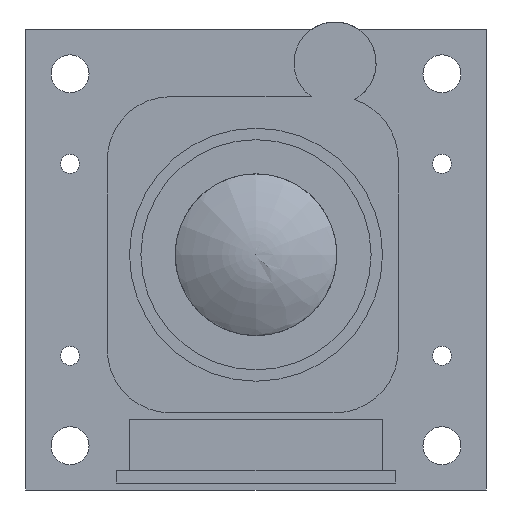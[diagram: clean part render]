
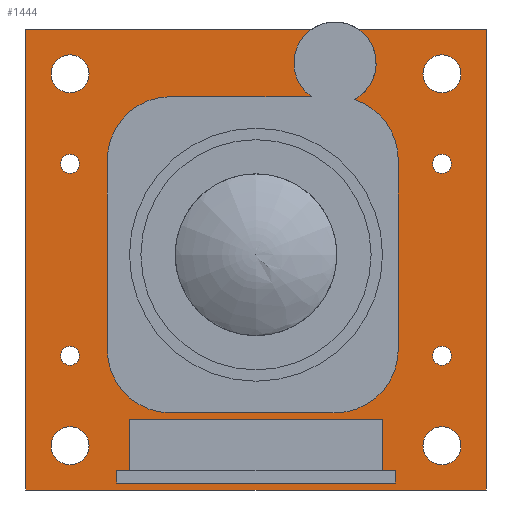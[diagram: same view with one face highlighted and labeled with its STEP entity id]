
A CAD part, front view. The second image highlights one B-rep face of the part: STEP entity #1444.
In plain terms, the highlighted planar face has unit normal (0, -1, 0).
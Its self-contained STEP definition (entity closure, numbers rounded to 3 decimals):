
#57=FACE_BOUND('',#239,.T.);
#58=FACE_BOUND('',#240,.T.);
#59=FACE_BOUND('',#241,.T.);
#60=FACE_BOUND('',#242,.T.);
#61=FACE_BOUND('',#243,.T.);
#62=FACE_BOUND('',#244,.T.);
#63=FACE_BOUND('',#245,.T.);
#64=FACE_BOUND('',#246,.T.);
#87=PLANE('',#1593);
#155=FACE_OUTER_BOUND('',#238,.T.);
#238=EDGE_LOOP('',(#1064,#1065,#1066,#1067,#1068,#1069,#1070,#1071,#1072,
#1073,#1074,#1075,#1076,#1077,#1078));
#239=EDGE_LOOP('',(#1079));
#240=EDGE_LOOP('',(#1080));
#241=EDGE_LOOP('',(#1081));
#242=EDGE_LOOP('',(#1082));
#243=EDGE_LOOP('',(#1083));
#244=EDGE_LOOP('',(#1084));
#245=EDGE_LOOP('',(#1085));
#246=EDGE_LOOP('',(#1086));
#335=LINE('',#2149,#490);
#338=LINE('',#2155,#493);
#340=LINE('',#2159,#495);
#348=LINE('',#2190,#503);
#349=LINE('',#2194,#504);
#350=LINE('',#2200,#505);
#351=LINE('',#2204,#506);
#352=LINE('',#2208,#507);
#353=LINE('',#2211,#508);
#490=VECTOR('',#1736,10.);
#493=VECTOR('',#1741,10.);
#495=VECTOR('',#1743,10.);
#503=VECTOR('',#1777,10.);
#504=VECTOR('',#1782,10.);
#505=VECTOR('',#1787,10.);
#506=VECTOR('',#1790,10.);
#507=VECTOR('',#1793,10.);
#508=VECTOR('',#1796,10.);
#649=CIRCLE('',#1582,1.5);
#651=CIRCLE('',#1585,1.5);
#653=CIRCLE('',#1588,1.5);
#655=CIRCLE('',#1591,1.5);
#656=CIRCLE('',#1594,3.25);
#657=CIRCLE('',#1595,3.25);
#658=CIRCLE('',#1596,5.);
#659=CIRCLE('',#1597,5.);
#660=CIRCLE('',#1598,5.);
#661=CIRCLE('',#1599,5.);
#662=CIRCLE('',#1600,0.75);
#663=CIRCLE('',#1601,0.75);
#664=CIRCLE('',#1602,0.75);
#665=CIRCLE('',#1603,0.75);
#693=VERTEX_POINT('',#2146);
#694=VERTEX_POINT('',#2148);
#696=VERTEX_POINT('',#2154);
#697=VERTEX_POINT('',#2156);
#698=VERTEX_POINT('',#2158);
#700=VERTEX_POINT('',#2164);
#702=VERTEX_POINT('',#2170);
#704=VERTEX_POINT('',#2176);
#706=VERTEX_POINT('',#2182);
#708=VERTEX_POINT('',#2188);
#709=VERTEX_POINT('',#2192);
#710=VERTEX_POINT('',#2195);
#711=VERTEX_POINT('',#2197);
#712=VERTEX_POINT('',#2199);
#713=VERTEX_POINT('',#2201);
#714=VERTEX_POINT('',#2203);
#715=VERTEX_POINT('',#2205);
#716=VERTEX_POINT('',#2207);
#717=VERTEX_POINT('',#2209);
#718=VERTEX_POINT('',#2212);
#719=VERTEX_POINT('',#2214);
#720=VERTEX_POINT('',#2216);
#721=VERTEX_POINT('',#2218);
#829=EDGE_CURVE('',#694,#693,#335,.T.);
#832=EDGE_CURVE('',#696,#694,#338,.T.);
#834=EDGE_CURVE('',#698,#697,#340,.T.);
#838=EDGE_CURVE('',#700,#700,#649,.T.);
#841=EDGE_CURVE('',#702,#702,#651,.T.);
#844=EDGE_CURVE('',#704,#704,#653,.T.);
#847=EDGE_CURVE('',#706,#706,#655,.T.);
#850=EDGE_CURVE('',#693,#708,#348,.T.);
#851=EDGE_CURVE('',#709,#696,#656,.T.);
#852=EDGE_CURVE('',#708,#698,#349,.T.);
#853=EDGE_CURVE('',#697,#710,#657,.T.);
#854=EDGE_CURVE('',#710,#711,#658,.T.);
#855=EDGE_CURVE('',#711,#712,#350,.T.);
#856=EDGE_CURVE('',#712,#713,#659,.T.);
#857=EDGE_CURVE('',#713,#714,#351,.T.);
#858=EDGE_CURVE('',#714,#715,#660,.T.);
#859=EDGE_CURVE('',#715,#716,#352,.T.);
#860=EDGE_CURVE('',#716,#717,#661,.T.);
#861=EDGE_CURVE('',#717,#709,#353,.T.);
#862=EDGE_CURVE('',#718,#718,#662,.T.);
#863=EDGE_CURVE('',#719,#719,#663,.T.);
#864=EDGE_CURVE('',#720,#720,#664,.T.);
#865=EDGE_CURVE('',#721,#721,#665,.T.);
#1064=ORIENTED_EDGE('',*,*,#851,.T.);
#1065=ORIENTED_EDGE('',*,*,#832,.T.);
#1066=ORIENTED_EDGE('',*,*,#829,.T.);
#1067=ORIENTED_EDGE('',*,*,#850,.T.);
#1068=ORIENTED_EDGE('',*,*,#852,.T.);
#1069=ORIENTED_EDGE('',*,*,#834,.T.);
#1070=ORIENTED_EDGE('',*,*,#853,.T.);
#1071=ORIENTED_EDGE('',*,*,#854,.T.);
#1072=ORIENTED_EDGE('',*,*,#855,.T.);
#1073=ORIENTED_EDGE('',*,*,#856,.T.);
#1074=ORIENTED_EDGE('',*,*,#857,.T.);
#1075=ORIENTED_EDGE('',*,*,#858,.T.);
#1076=ORIENTED_EDGE('',*,*,#859,.T.);
#1077=ORIENTED_EDGE('',*,*,#860,.T.);
#1078=ORIENTED_EDGE('',*,*,#861,.T.);
#1079=ORIENTED_EDGE('',*,*,#862,.T.);
#1080=ORIENTED_EDGE('',*,*,#863,.T.);
#1081=ORIENTED_EDGE('',*,*,#864,.T.);
#1082=ORIENTED_EDGE('',*,*,#865,.T.);
#1083=ORIENTED_EDGE('',*,*,#847,.T.);
#1084=ORIENTED_EDGE('',*,*,#844,.T.);
#1085=ORIENTED_EDGE('',*,*,#841,.T.);
#1086=ORIENTED_EDGE('',*,*,#838,.T.);
#1444=ADVANCED_FACE('',(#155,#57,#58,#59,#60,#61,#62,#63,#64),#87,.T.);
#1582=AXIS2_PLACEMENT_3D('',#2166,#1750,#1751);
#1585=AXIS2_PLACEMENT_3D('',#2172,#1757,#1758);
#1588=AXIS2_PLACEMENT_3D('',#2178,#1764,#1765);
#1591=AXIS2_PLACEMENT_3D('',#2184,#1771,#1772);
#1593=AXIS2_PLACEMENT_3D('',#2191,#1778,#1779);
#1594=AXIS2_PLACEMENT_3D('',#2193,#1780,#1781);
#1595=AXIS2_PLACEMENT_3D('',#2196,#1783,#1784);
#1596=AXIS2_PLACEMENT_3D('',#2198,#1785,#1786);
#1597=AXIS2_PLACEMENT_3D('',#2202,#1788,#1789);
#1598=AXIS2_PLACEMENT_3D('',#2206,#1791,#1792);
#1599=AXIS2_PLACEMENT_3D('',#2210,#1794,#1795);
#1600=AXIS2_PLACEMENT_3D('',#2213,#1797,#1798);
#1601=AXIS2_PLACEMENT_3D('',#2215,#1799,#1800);
#1602=AXIS2_PLACEMENT_3D('',#2217,#1801,#1802);
#1603=AXIS2_PLACEMENT_3D('',#2219,#1803,#1804);
#1736=DIRECTION('',(0.,0.,-1.));
#1741=DIRECTION('',(-1.,0.,0.));
#1743=DIRECTION('',(-1.,0.,0.));
#1750=DIRECTION('center_axis',(0.,1.,0.));
#1751=DIRECTION('ref_axis',(-1.,0.,0.));
#1757=DIRECTION('center_axis',(0.,1.,0.));
#1758=DIRECTION('ref_axis',(-1.,0.,0.));
#1764=DIRECTION('center_axis',(0.,1.,0.));
#1765=DIRECTION('ref_axis',(-1.,0.,0.));
#1771=DIRECTION('center_axis',(0.,1.,0.));
#1772=DIRECTION('ref_axis',(-1.,0.,0.));
#1777=DIRECTION('',(1.,0.,0.));
#1778=DIRECTION('center_axis',(0.,-1.,0.));
#1779=DIRECTION('ref_axis',(1.,0.,0.));
#1780=DIRECTION('center_axis',(0.,1.,0.));
#1781=DIRECTION('ref_axis',(1.,0.,0.));
#1782=DIRECTION('',(0.,0.,1.));
#1783=DIRECTION('center_axis',(0.,1.,0.));
#1784=DIRECTION('ref_axis',(1.,0.,0.));
#1785=DIRECTION('center_axis',(0.,1.,0.));
#1786=DIRECTION('ref_axis',(1.,0.,0.));
#1787=DIRECTION('',(0.,0.,-1.));
#1788=DIRECTION('center_axis',(0.,1.,0.));
#1789=DIRECTION('ref_axis',(0.,0.,
-1.));
#1790=DIRECTION('',(-1.,0.,0.));
#1791=DIRECTION('center_axis',(0.,1.,0.));
#1792=DIRECTION('ref_axis',(-1.,0.,0.));
#1793=DIRECTION('',(0.,0.,1.));
#1794=DIRECTION('center_axis',(0.,1.,0.));
#1795=DIRECTION('ref_axis',(0.,0.,1.));
#1796=DIRECTION('',(1.,0.,0.));
#1797=DIRECTION('center_axis',(0.,1.,0.));
#1798=DIRECTION('ref_axis',(-1.,0.,0.));
#1799=DIRECTION('center_axis',(0.,1.,0.));
#1800=DIRECTION('ref_axis',(-1.,0.,0.));
#1801=DIRECTION('center_axis',(0.,1.,0.));
#1802=DIRECTION('ref_axis',(-1.,0.,0.));
#1803=DIRECTION('center_axis',(0.,1.,0.));
#1804=DIRECTION('ref_axis',(-1.,0.,0.));
#2146=CARTESIAN_POINT('',(-9.083,-10.58,-2.979));
#2148=CARTESIAN_POINT('',(-9.083,-10.58,33.421));
#2149=CARTESIAN_POINT('',(-9.083,-10.58,33.421));
#2154=CARTESIAN_POINT('',(13.481,-10.58,33.421));
#2155=CARTESIAN_POINT('',(27.317,-10.58,33.421));
#2156=CARTESIAN_POINT('',(17.244,-10.58,33.421));
#2158=CARTESIAN_POINT('',(27.317,-10.58,33.421));
#2159=CARTESIAN_POINT('',(27.317,-10.58,33.421));
#2164=CARTESIAN_POINT('',(-4.083,-10.58,29.921));
#2166=CARTESIAN_POINT('Origin',(-5.583,-10.58,29.921));
#2170=CARTESIAN_POINT('',(25.317,-10.58,29.921));
#2172=CARTESIAN_POINT('Origin',(23.817,-10.58,29.921));
#2176=CARTESIAN_POINT('',(25.317,-10.58,0.521));
#2178=CARTESIAN_POINT('Origin',(23.817,-10.58,0.521));
#2182=CARTESIAN_POINT('',(-4.083,-10.58,0.521));
#2184=CARTESIAN_POINT('Origin',(-5.583,-10.58,0.521));
#2188=CARTESIAN_POINT('',(27.317,-10.58,-2.979));
#2190=CARTESIAN_POINT('',(27.317,-10.58,-2.979));
#2191=CARTESIAN_POINT('Origin',(9.117,-10.58,12.121));
#2192=CARTESIAN_POINT('',(13.481,-10.58,28.121));
#2193=CARTESIAN_POINT('Origin',(15.363,-10.58,30.771));
#2194=CARTESIAN_POINT('',(27.317,-10.58,0.121));
#2195=CARTESIAN_POINT('',(16.866,-10.58,27.889));
#2196=CARTESIAN_POINT('Origin',(15.363,-10.58,30.771));
#2197=CARTESIAN_POINT('',(20.363,-10.58,23.121));
#2198=CARTESIAN_POINT('Origin',(15.363,-10.58,23.121));
#2199=CARTESIAN_POINT('',(20.363,-10.58,8.121));
#2200=CARTESIAN_POINT('',(20.363,-10.58,10.121));
#2201=CARTESIAN_POINT('',(15.363,-10.58,3.121));
#2202=CARTESIAN_POINT('Origin',(15.363,-10.58,8.121));
#2203=CARTESIAN_POINT('',(2.363,-10.58,3.121));
#2204=CARTESIAN_POINT('',(5.74,-10.58,3.121));
#2205=CARTESIAN_POINT('',(-2.637,-10.58,8.121));
#2206=CARTESIAN_POINT('Origin',(2.363,-10.58,8.121));
#2207=CARTESIAN_POINT('',(-2.637,-10.58,23.121));
#2208=CARTESIAN_POINT('',(-2.637,-10.58,17.621));
#2209=CARTESIAN_POINT('',(2.363,-10.58,28.121));
#2210=CARTESIAN_POINT('Origin',(2.363,-10.58,23.121));
#2211=CARTESIAN_POINT('',(12.24,-10.58,28.121));
#2212=CARTESIAN_POINT('',(24.567,-10.58,7.633));
#2213=CARTESIAN_POINT('Origin',(23.817,-10.58,7.633));
#2214=CARTESIAN_POINT('',(-4.833,-10.58,7.633));
#2215=CARTESIAN_POINT('Origin',(-5.583,-10.58,7.633));
#2216=CARTESIAN_POINT('',(24.567,-10.58,22.808));
#2217=CARTESIAN_POINT('Origin',(23.817,-10.58,22.808));
#2218=CARTESIAN_POINT('',(-4.833,-10.58,22.808));
#2219=CARTESIAN_POINT('Origin',(-5.583,-10.58,22.808));
